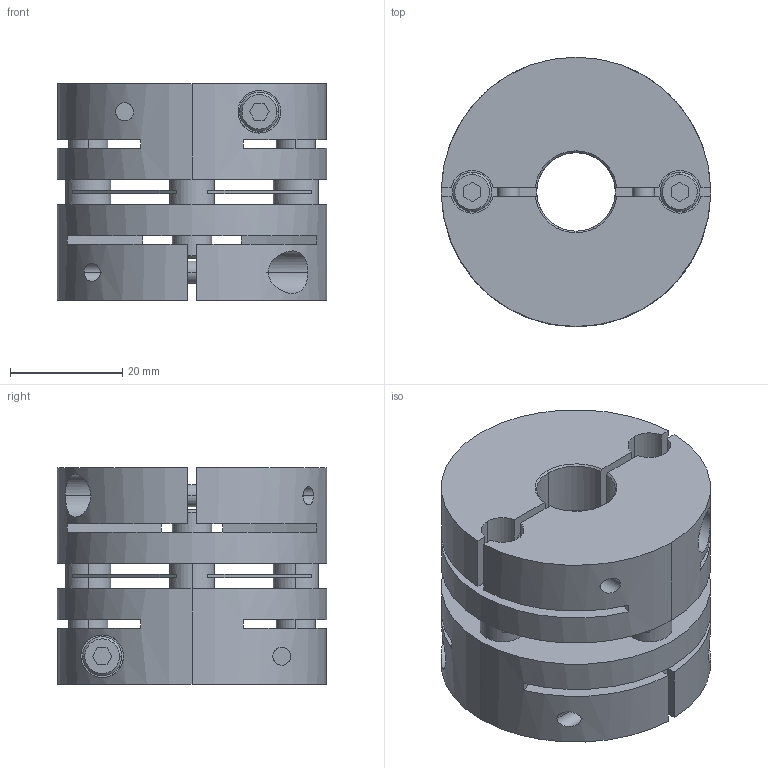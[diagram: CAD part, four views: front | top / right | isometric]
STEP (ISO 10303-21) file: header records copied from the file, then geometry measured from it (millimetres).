
FILE_DESCRIPTION((''),'2;1');
FILE_NAME('LAS-48C-14×20.stp','2013-06-12T09:42:27',(''),(''),'AutoCAD STEP 2000i','AutoCAD 2000i',', , ');
FILE_SCHEMA(('CONFIG_CONTROL_DESIGN'));
Length unit declared in the file: millimetre
Products named in the file (6): LAS-48C-12×19; 忣兜1; LA-4802-D19; LA-4802-D12-1; LA-4802-D12; LAS48-ITA
Assembly tree (5 placements, depth 2):
  LAS-48C-12×19
    忣兜1
    LA-4802-D19
    LA-4802-D12-1
    LA-4802-D12
    LAS48-ITA
Bounding box: 48 x 48 x 38.6 mm (x, y, z)
Volume: 48257.5 mm3; surface area: 22123.8 mm2
Topology: 1 solids, 1 shells, 224 faces, 600 edges, 392 vertices
Faces by surface type: plane 112, cylinder 84, cone 28
Entity records: 7841 total; most frequent: CARTESIAN_POINT 1878, DIRECTION 1256, ORIENTED_EDGE 1200, EDGE_CURVE 600, AXIS2_PLACEMENT_3D 458, VERTEX_POINT 392, VECTOR 340, LINE 340
